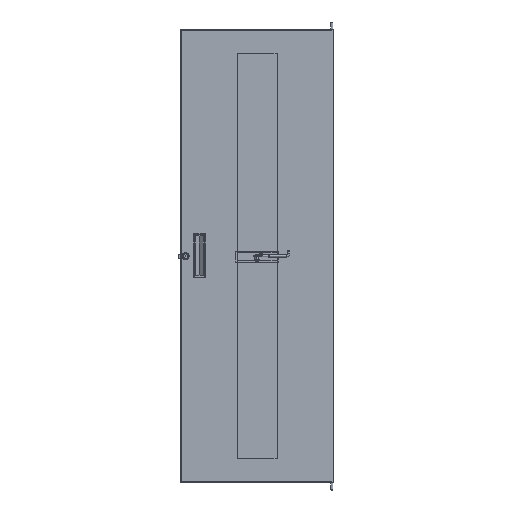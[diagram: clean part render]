
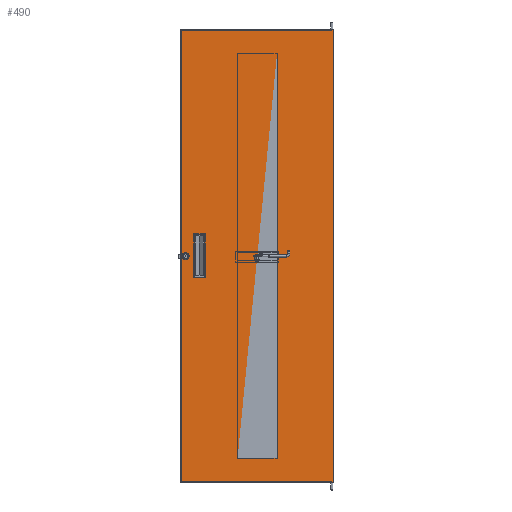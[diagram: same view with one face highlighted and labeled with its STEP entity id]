
A CAD part, front view. The second image highlights one B-rep face of the part: STEP entity #490.
In plain terms, the highlighted planar face has unit normal (0, -1, 0).
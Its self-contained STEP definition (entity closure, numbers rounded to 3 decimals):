
#490 = ADVANCED_FACE( '', ( #789, #790, #791 ), #792, .T. );
#789 = FACE_BOUND( '', #1437, .T. );
#790 = FACE_OUTER_BOUND( '', #1438, .T. );
#791 = FACE_BOUND( '', #1439, .T. );
#792 = PLANE( '', #1440 );
#1437 = EDGE_LOOP( '', ( #2506, #2507, #2508, #2509, #2510, #2511, #2512, #2513 ) );
#1438 = EDGE_LOOP( '', ( #2514, #2515, #2516, #2517, #2518, #2519 ) );
#1439 = EDGE_LOOP( '', ( #2520, #2521, #2522, #2523, #2524, #2525, #2526, #2527 ) );
#1440 = AXIS2_PLACEMENT_3D( '', #2528, #2529, #2530 );
#2506 = ORIENTED_EDGE( '', *, *, #4045, .F. );
#2507 = ORIENTED_EDGE( '', *, *, #4021, .F. );
#2508 = ORIENTED_EDGE( '', *, *, #4039, .F. );
#2509 = ORIENTED_EDGE( '', *, *, #4046, .F. );
#2510 = ORIENTED_EDGE( '', *, *, #4047, .F. );
#2511 = ORIENTED_EDGE( '', *, *, #4048, .F. );
#2512 = ORIENTED_EDGE( '', *, *, #4049, .F. );
#2513 = ORIENTED_EDGE( '', *, *, #4050, .F. );
#2514 = ORIENTED_EDGE( '', *, *, #3990, .T. );
#2515 = ORIENTED_EDGE( '', *, *, #3915, .T. );
#2516 = ORIENTED_EDGE( '', *, *, #4051, .T. );
#2517 = ORIENTED_EDGE( '', *, *, #3894, .T. );
#2518 = ORIENTED_EDGE( '', *, *, #4017, .T. );
#2519 = ORIENTED_EDGE( '', *, *, #3928, .T. );
#2520 = ORIENTED_EDGE( '', *, *, #4052, .T. );
#2521 = ORIENTED_EDGE( '', *, *, #4053, .T. );
#2522 = ORIENTED_EDGE( '', *, *, #4054, .T. );
#2523 = ORIENTED_EDGE( '', *, *, #4055, .T. );
#2524 = ORIENTED_EDGE( '', *, *, #4056, .T. );
#2525 = ORIENTED_EDGE( '', *, *, #4057, .T. );
#2526 = ORIENTED_EDGE( '', *, *, #4058, .T. );
#2527 = ORIENTED_EDGE( '', *, *, #4059, .T. );
#2528 = CARTESIAN_POINT( '', ( -239.205, 0., -705.841 ) );
#2529 = DIRECTION( '', ( 0., -1., 0. ) );
#2530 = DIRECTION( '', ( 0., 0., -1. ) );
#3894 = EDGE_CURVE( '', #4497, #4495, #4498, .T. );
#3915 = EDGE_CURVE( '', #4517, #4537, #4539, .T. );
#3928 = EDGE_CURVE( '', #4562, #4552, #4563, .T. );
#3990 = EDGE_CURVE( '', #4552, #4517, #4664, .T. );
#4017 = EDGE_CURVE( '', #4495, #4562, #4710, .T. );
#4021 = EDGE_CURVE( '', #4715, #4717, #4718, .T. );
#4039 = EDGE_CURVE( '', #4746, #4715, #4748, .T. );
#4045 = EDGE_CURVE( '', #4717, #4757, #4758, .T. );
#4046 = EDGE_CURVE( '', #4759, #4746, #4760, .T. );
#4047 = EDGE_CURVE( '', #4761, #4759, #4762, .T. );
#4048 = EDGE_CURVE( '', #4763, #4761, #4764, .T. );
#4049 = EDGE_CURVE( '', #4765, #4763, #4766, .T. );
#4050 = EDGE_CURVE( '', #4757, #4765, #4767, .T. );
#4051 = EDGE_CURVE( '', #4537, #4497, #4768, .T. );
#4052 = EDGE_CURVE( '', #4769, #4770, #4771, .T. );
#4053 = EDGE_CURVE( '', #4770, #4772, #4773, .T. );
#4054 = EDGE_CURVE( '', #4772, #4774, #4775, .T. );
#4055 = EDGE_CURVE( '', #4774, #4776, #4777, .T. );
#4056 = EDGE_CURVE( '', #4776, #4778, #4779, .T. );
#4057 = EDGE_CURVE( '', #4778, #4780, #4781, .T. );
#4058 = EDGE_CURVE( '', #4780, #4782, #4783, .T. );
#4059 = EDGE_CURVE( '', #4782, #4769, #4784, .T. );
#4495 = VERTEX_POINT( '', #5465 );
#4497 = VERTEX_POINT( '', #5468 );
#4498 = LINE( '', #5469, #5470 );
#4517 = VERTEX_POINT( '', #5494 );
#4537 = VERTEX_POINT( '', #5521 );
#4539 = LINE( '', #5523, #5524 );
#4552 = VERTEX_POINT( '', #5574 );
#4562 = VERTEX_POINT( '', #5600 );
#4563 = LINE( '', #5601, #5602 );
#4664 = LINE( '', #5806, #5807 );
#4710 = LINE( '', #5902, #5903 );
#4715 = VERTEX_POINT( '', #5909 );
#4717 = VERTEX_POINT( '', #5912 );
#4718 = CIRCLE( '', #5913, 1.588 );
#4746 = VERTEX_POINT( '', #5959 );
#4748 = LINE( '', #5962, #5963 );
#4757 = VERTEX_POINT( '', #5977 );
#4758 = LINE( '', #5978, #5979 );
#4759 = VERTEX_POINT( '', #5980 );
#4760 = CIRCLE( '', #5981, 1.588 );
#4761 = VERTEX_POINT( '', #5982 );
#4762 = LINE( '', #5983, #5984 );
#4763 = VERTEX_POINT( '', #5985 );
#4764 = CIRCLE( '', #5986, 1.588 );
#4765 = VERTEX_POINT( '', #5987 );
#4766 = LINE( '', #5988, #5989 );
#4767 = CIRCLE( '', #5990, 1.588 );
#4768 = LINE( '', #5991, #5992 );
#4769 = VERTEX_POINT( '', #5993 );
#4770 = VERTEX_POINT( '', #5994 );
#4771 = LINE( '', #5995, #5996 );
#4772 = VERTEX_POINT( '', #5997 );
#4773 = LINE( '', #5998, #5999 );
#4774 = VERTEX_POINT( '', #6000 );
#4775 = LINE( '', #6001, #6002 );
#4776 = VERTEX_POINT( '', #6003 );
#4777 = LINE( '', #6004, #6005 );
#4778 = VERTEX_POINT( '', #6006 );
#4779 = LINE( '', #6007, #6008 );
#4780 = VERTEX_POINT( '', #6009 );
#4781 = LINE( '', #6010, #6011 );
#4782 = VERTEX_POINT( '', #6012 );
#4783 = LINE( '', #6013, #6014 );
#4784 = LINE( '', #6015, #6016 );
#5465 = CARTESIAN_POINT( '', ( 226.505, 0., 705.841 ) );
#5468 = CARTESIAN_POINT( '', ( 237.02, 0., 705.841 ) );
#5469 = CARTESIAN_POINT( '', ( 226.505, 0., 705.841 ) );
#5470 = VECTOR( '', #7045, 1000. );
#5494 = CARTESIAN_POINT( '', ( 226.505, 0., -705.841 ) );
#5521 = CARTESIAN_POINT( '', ( 237.02, 0., -705.841 ) );
#5523 = CARTESIAN_POINT( '', ( -239.205, 0., -705.841 ) );
#5524 = VECTOR( '', #7082, 1000. );
#5574 = CARTESIAN_POINT( '', ( -237.02, 0., -705.841 ) );
#5600 = CARTESIAN_POINT( '', ( -237.02, 0., 705.841 ) );
#5601 = CARTESIAN_POINT( '', ( -237.02, 0., 705.841 ) );
#5602 = VECTOR( '', #7095, 1000. );
#5806 = CARTESIAN_POINT( '', ( -239.205, 0., -705.841 ) );
#5807 = VECTOR( '', #7176, 1000. );
#5902 = CARTESIAN_POINT( '', ( 226.505, 0., 705.841 ) );
#5903 = VECTOR( '', #7218, 1000. );
#5909 = CARTESIAN_POINT( '', ( -196.177, 0., -64.453 ) );
#5912 = CARTESIAN_POINT( '', ( -194.589, 0., -66.04 ) );
#5913 = AXIS2_PLACEMENT_3D( '', #7224, #7225, #7226 );
#5959 = CARTESIAN_POINT( '', ( -196.177, 0., 64.453 ) );
#5962 = CARTESIAN_POINT( '', ( -196.177, 0., -705.841 ) );
#5963 = VECTOR( '', #7246, 1000. );
#5977 = CARTESIAN_POINT( '', ( -167.03, 0., -66.04 ) );
#5978 = CARTESIAN_POINT( '', ( -239.205, 0., -66.04 ) );
#5979 = VECTOR( '', #7252, 1000. );
#5980 = CARTESIAN_POINT( '', ( -194.589, 0., 66.04 ) );
#5981 = AXIS2_PLACEMENT_3D( '', #7253, #7254, #7255 );
#5982 = CARTESIAN_POINT( '', ( -167.03, 0., 66.04 ) );
#5983 = CARTESIAN_POINT( '', ( -239.205, 0., 66.04 ) );
#5984 = VECTOR( '', #7256, 1000. );
#5985 = CARTESIAN_POINT( '', ( -165.443, 0., 64.453 ) );
#5986 = AXIS2_PLACEMENT_3D( '', #7257, #7258, #7259 );
#5987 = CARTESIAN_POINT( '', ( -165.443, 0., -64.453 ) );
#5988 = CARTESIAN_POINT( '', ( -165.443, 0., -705.841 ) );
#5989 = VECTOR( '', #7260, 1000. );
#5990 = AXIS2_PLACEMENT_3D( '', #7261, #7262, #7263 );
#5991 = CARTESIAN_POINT( '', ( 237.02, 0., -705.841 ) );
#5992 = VECTOR( '', #7264, 1000. );
#5993 = CARTESIAN_POINT( '', ( -232.372, 0., -1.92 ) );
#5994 = CARTESIAN_POINT( '', ( -232.372, 0., 1.92 ) );
#5995 = CARTESIAN_POINT( '', ( -232.372, 0., -1.92 ) );
#5996 = VECTOR( '', #7265, 1000. );
#5997 = CARTESIAN_POINT( '', ( -225.884, 0., 8.407 ) );
#5998 = CARTESIAN_POINT( '', ( -232.372, 0., 1.92 ) );
#5999 = VECTOR( '', #7266, 1000. );
#6000 = CARTESIAN_POINT( '', ( -222.045, 0., 8.407 ) );
#6001 = CARTESIAN_POINT( '', ( -225.884, 0., 8.407 ) );
#6002 = VECTOR( '', #7267, 1000. );
#6003 = CARTESIAN_POINT( '', ( -215.557, 0., 1.92 ) );
#6004 = CARTESIAN_POINT( '', ( -222.045, 0., 8.407 ) );
#6005 = VECTOR( '', #7268, 1000. );
#6006 = CARTESIAN_POINT( '', ( -215.557, 0., -1.92 ) );
#6007 = CARTESIAN_POINT( '', ( -215.557, 0., 1.92 ) );
#6008 = VECTOR( '', #7269, 1000. );
#6009 = CARTESIAN_POINT( '', ( -222.045, 0., -8.407 ) );
#6010 = CARTESIAN_POINT( '', ( -215.557, 0., -1.92 ) );
#6011 = VECTOR( '', #7270, 1000. );
#6012 = CARTESIAN_POINT( '', ( -225.884, 0., -8.407 ) );
#6013 = CARTESIAN_POINT( '', ( -222.045, 0., -8.407 ) );
#6014 = VECTOR( '', #7271, 1000. );
#6015 = CARTESIAN_POINT( '', ( -225.884, 0., -8.407 ) );
#6016 = VECTOR( '', #7272, 1000. );
#7045 = DIRECTION( '', ( -1., 0., 0. ) );
#7082 = DIRECTION( '', ( 1., 0., 0. ) );
#7095 = DIRECTION( '', ( 0., 0., -1. ) );
#7176 = DIRECTION( '', ( 1., 0., 0. ) );
#7218 = DIRECTION( '', ( -1., 0., 0. ) );
#7224 = CARTESIAN_POINT( '', ( -194.589, 0., -64.453 ) );
#7225 = DIRECTION( '', ( 0., -1., 0. ) );
#7226 = DIRECTION( '', ( 0., 0., -1. ) );
#7246 = DIRECTION( '', ( 0., 0., -1. ) );
#7252 = DIRECTION( '', ( 1., 0., 0. ) );
#7253 = CARTESIAN_POINT( '', ( -194.589, 0., 64.453 ) );
#7254 = DIRECTION( '', ( 0., -1., 0. ) );
#7255 = DIRECTION( '', ( 0., 0., -1. ) );
#7256 = DIRECTION( '', ( -1., 0., 0. ) );
#7257 = CARTESIAN_POINT( '', ( -167.03, 0., 64.453 ) );
#7258 = DIRECTION( '', ( 0., -1., 0. ) );
#7259 = DIRECTION( '', ( 0., 0., -1. ) );
#7260 = DIRECTION( '', ( 0., 0., 1. ) );
#7261 = CARTESIAN_POINT( '', ( -167.03, 0., -64.453 ) );
#7262 = DIRECTION( '', ( 0., -1., 0. ) );
#7263 = DIRECTION( '', ( 0., 0., -1. ) );
#7264 = DIRECTION( '', ( 0., 0., 1. ) );
#7265 = DIRECTION( '', ( 0., 0., 1. ) );
#7266 = DIRECTION( '', ( 0.707, 0., 0.707 ) );
#7267 = DIRECTION( '', ( 1., 0., 0. ) );
#7268 = DIRECTION( '', ( 0.707, 0., -0.707 ) );
#7269 = DIRECTION( '', ( 0., 0., -1. ) );
#7270 = DIRECTION( '', ( -0.707, 0., -0.707 ) );
#7271 = DIRECTION( '', ( -1., 0., 0. ) );
#7272 = DIRECTION( '', ( -0.707, 0., 0.707 ) );
